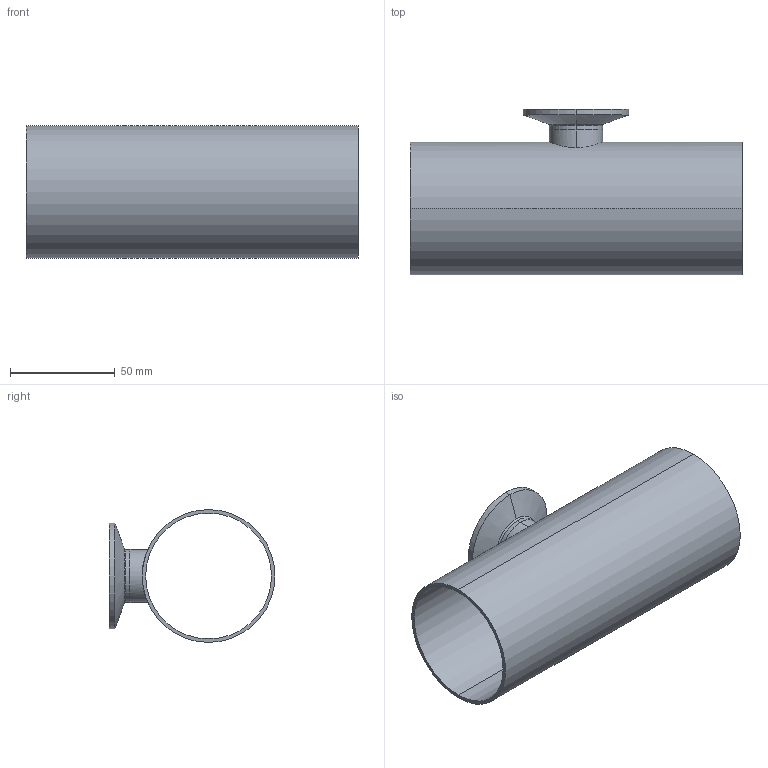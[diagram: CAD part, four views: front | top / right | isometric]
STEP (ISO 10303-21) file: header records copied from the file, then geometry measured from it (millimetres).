
FILE_DESCRIPTION (( 'STEP AP214' ), '1' );
FILE_NAME ('TE7RWWCS6L2.5x1.0-...STEP', '2016-05-23T12:10:38', ( 'eran' ), ( '' ), 'SwSTEP 2.0', 'SolidWorks 2016', '' );
FILE_SCHEMA (( 'AUTOMOTIVE_DESIGN' ));
Length unit declared in the file: millimetre
Products named in the file (1): TE7RWWCS6L2.5x1.0-..
Bounding box: 158.8 x 79.35 x 63.5 mm (x, y, z)
Volume: 59433.5 mm3; surface area: 67457.8 mm2
Topology: 2 solids, 2 shells, 36 faces, 88 edges, 58 vertices
Faces by surface type: cylinder 14, bspline 10, plane 6, cone 6
Entity records: 1831 total; most frequent: CARTESIAN_POINT 927, DIRECTION 190, ORIENTED_EDGE 176, EDGE_CURVE 88, AXIS2_PLACEMENT_3D 85, VERTEX_POINT 58, CIRCLE 58, EDGE_LOOP 44
